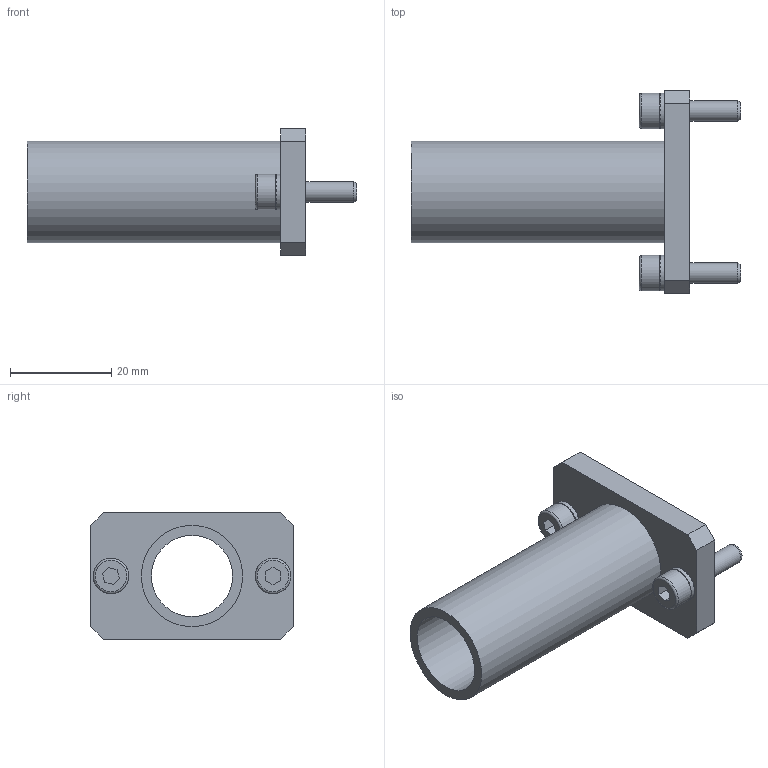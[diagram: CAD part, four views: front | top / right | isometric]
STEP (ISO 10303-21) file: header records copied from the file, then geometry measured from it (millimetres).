
FILE_DESCRIPTION(('STEP AP214'),'1');
FILE_NAME('CA.APG.40.20.50.stp','2017-02-27T07:54:12',(' '),(' '),'Spatial InterOp 3D',' ',' ');
FILE_SCHEMA(('automotive_design'));
Length unit declared in the file: millimetre
Products named in the file (4): R.4.SCH; V-tcei M  4 x 16; APG.40.20.50
Assembly tree (5 placements, depth 2):
  (unnamed)
    R.4.SCH  x2
    V-tcei M  4 x 16  x2
    APG.40.20.50
Bounding box: 65 x 40 x 25 mm (x, y, z)
Volume: 9943.2 mm3; surface area: 9265 mm2
Topology: 3 solids, 5 shells, 437 faces, 1269 edges, 843 vertices
Faces by surface type: plane 417, cylinder 14, torus 4, cone 2
Full cylindrical faces by diameter (mm): 4 x2, 4.3 x2, 4.5 x2, 6 x2, 7 x4, 16 x1, 20 x1
Entity records: 9345 total; most frequent: DIRECTION 1316, CARTESIAN_POINT 1302, ORIENTED_EDGE 1274, EDGE_CURVE 637, AXIS2_PLACEMENT_3D 445, VERTEX_POINT 431, LINE 426, VECTOR 426
